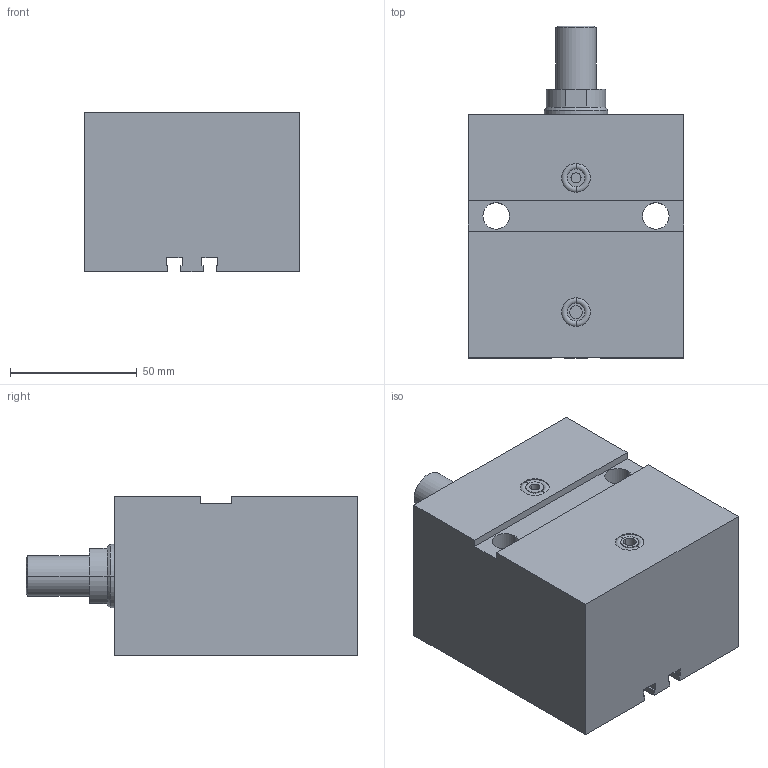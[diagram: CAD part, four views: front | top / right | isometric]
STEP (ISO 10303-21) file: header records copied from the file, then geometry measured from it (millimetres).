
FILE_DESCRIPTION (( 'STEP AP203' ), '1' );
FILE_NAME ('GERMA_Blockzylinder_704-040-025-A.STEP', '2016-07-23T10:17:36', ( '' ), ( '' ), 'SwSTEP 2.0', 'SolidWorks 2015', '' );
FILE_SCHEMA (( 'CONFIG_CONTROL_DESIGN' ));
Length unit declared in the file: millimetre
Products named in the file (3): GH-700-040_GH-704-040-025; Kolben_MT 70x-040_Kolben_MT DU.40-Hub25-AG; GERMA_Blockzylinder_704-040-025-A
Assembly tree (2 placements, depth 2):
  GERMA_Blockzylinder_704-040-025-A
    GH-700-040_GH-704-040-025
    Kolben_MT 70x-040_Kolben_MT DU.40-Hub25-AG
Bounding box: 85 x 131 x 63 mm (x, y, z)
Volume: 484042.1 mm3; surface area: 67821.8 mm2
Topology: 2 solids, 2 shells, 96 faces, 220 edges, 137 vertices
Faces by surface type: plane 43, cylinder 37, cone 12, torus 4
Entity records: 2994 total; most frequent: DIRECTION 507, CARTESIAN_POINT 454, ORIENTED_EDGE 432, EDGE_CURVE 216, AXIS2_PLACEMENT_3D 190, VERTEX_POINT 137, VECTOR 127, LINE 127
